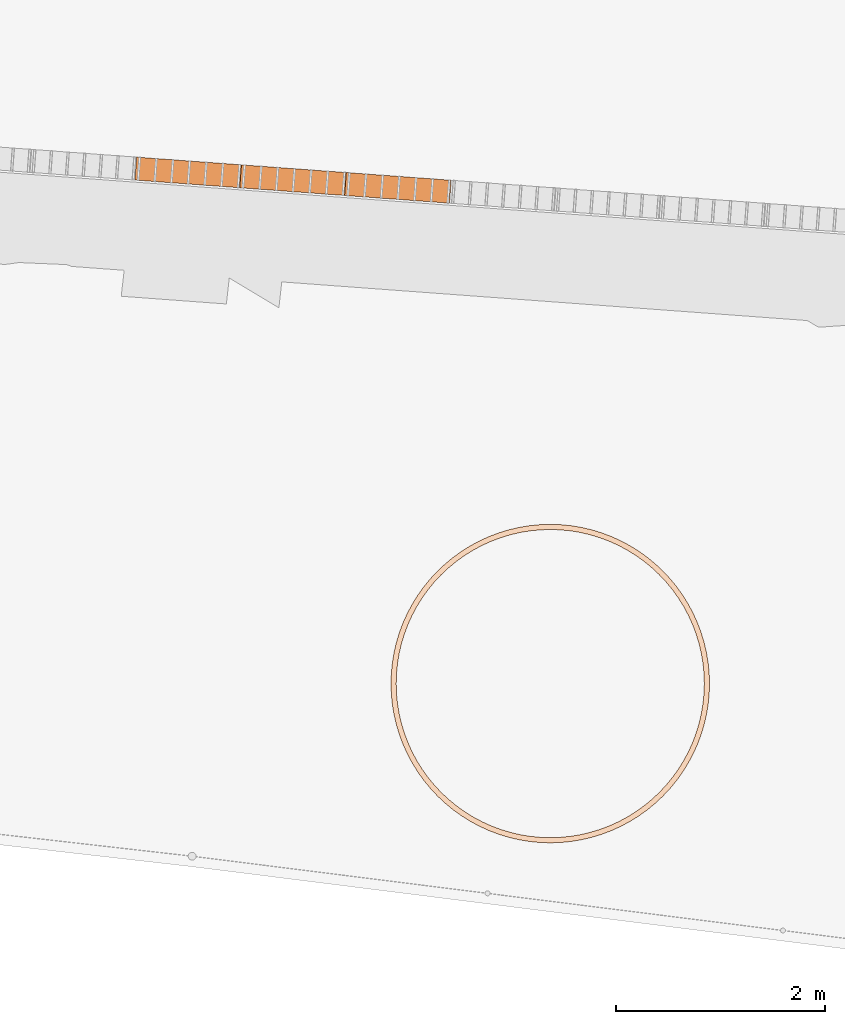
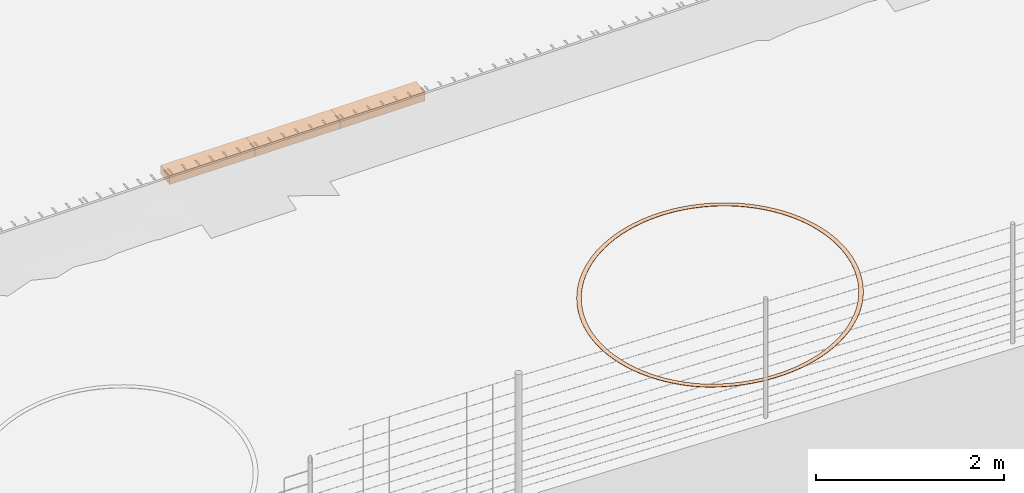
# Not in any storey, part 70 of 72: 3 proxies, 1 geographic element.
"""IFC4 model written with IfcOpenShell, lengths in metres."""

from ifc_helpers import new_model, si_unit, direction, frame, origin_with_axes, place, context, subcontext, project, spatial, polygons, material, element, save


model = new_model("IFC4")

# Units and contexts
model_context = context("Model", 3, precision=1e-05, world=origin_with_axes(), true_north=direction((0.0, 1.0)))
body_context = subcontext(model_context, "Body", "Model", "MODEL_VIEW")
ifc_project = project(units=[si_unit("AREAUNIT", "SQUARE_METRE"), si_unit("VOLUMEUNIT", "CUBIC_METRE"), si_unit("LENGTHUNIT", "METRE")], contexts=[model_context])

# Site
site_placement = place(None, origin_with_axes())
site = spatial("IfcSite", under=ifc_project, at=site_placement, Name="Lares · Rua das Mercês · artigo 4771")

# Proxies
ifc_material_1 = material(Name="Brita drenante", Category="stone")
proxy_1_placement = place(site_placement, frame((0.0, 0.0, 0.0), z_axis=(0.0, 0.0, 1.0), x_axis=(1.0, -1.03767253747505e-17, 0.0)))
element("IfcBuildingElementProxy", 1, at=proxy_1_placement, inside=site, material=ifc_material_1, Name="Acesso · dreno lateral raso · leito drenante", ObjectType="Acesso · dreno lateral raso · leito drenante", PredefinedType="USERDEFINED", context=body_context, shape_type="Tessellation", body=[
    polygons([(70.7471635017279, 1.44988744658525, 15.3206617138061), (70.7632908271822, 1.66929553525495, 15.3206617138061), (71.7673363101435, 1.59549438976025, 15.3752269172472), (71.7512089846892, 1.37608630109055, 15.3752269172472), (70.7471635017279, 1.44988744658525, 15.4356617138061), (70.7632908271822, 1.66929553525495, 15.4356617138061), (71.7673363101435, 1.59549438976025, 15.4902269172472), (71.7512089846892, 1.37608630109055, 15.4902269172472)], [[[4, 3, 2, 1]], [[5, 6, 7, 8]], [[1, 2, 6, 5]], [[2, 3, 7, 6]], [[3, 4, 8, 7]], [[4, 1, 5, 8]]]),
])
proxy_2_placement = place(site_placement, frame((0.0, 0.0, 0.0), z_axis=(0.0, 0.0, 1.0), x_axis=(1.0, -1.03767253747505e-17, 0.0)))
element("IfcBuildingElementProxy", 2, at=proxy_2_placement, inside=site, material=ifc_material_1, Name="Acesso · dreno lateral raso · leito drenante", ObjectType="Acesso · dreno lateral raso · leito drenante", PredefinedType="USERDEFINED", context=body_context, shape_type="Tessellation", body=[
    polygons([(71.7512089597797, 1.37608630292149, 15.3752269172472), (71.7673363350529, 1.59549438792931, 15.3752269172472), (72.7713731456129, 1.52169365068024, 15.4324257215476), (72.7552457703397, 1.30228556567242, 15.4324257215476), (71.7512089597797, 1.37608630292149, 15.4902269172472), (71.7673363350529, 1.59549438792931, 15.4902269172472), (72.7713731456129, 1.52169365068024, 15.5474257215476), (72.7552457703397, 1.30228556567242, 15.5474257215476)], [[[4, 3, 2, 1]], [[5, 6, 7, 8]], [[1, 2, 6, 5]], [[2, 3, 7, 6]], [[3, 4, 8, 7]], [[4, 1, 5, 8]]]),
])
proxy_3_placement = place(site_placement, frame((0.0, 0.0, 0.0), z_axis=(0.0, 0.0, 1.0), x_axis=(1.0, -1.03767253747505e-17, 0.0)))
element("IfcBuildingElementProxy", 3, at=proxy_3_placement, inside=site, material=ifc_material_1, Name="Acesso · dreno lateral raso · leito drenante", ObjectType="Acesso · dreno lateral raso · leito drenante", PredefinedType="USERDEFINED", context=body_context, shape_type="Tessellation", body=[
    polygons([(72.7552457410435, 1.30228556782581, 15.4324257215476), (72.771373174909, 1.52169364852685, 15.4324257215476), (73.7754008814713, 1.44789331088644, 15.4903385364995), (73.7592734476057, 1.2284852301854, 15.4903385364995), (72.7552457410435, 1.30228556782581, 15.5474257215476), (72.771373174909, 1.52169364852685, 15.5474257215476), (73.7754008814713, 1.44789331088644, 15.6053385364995), (73.7592734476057, 1.2284852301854, 15.6053385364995)], [[[4, 3, 2, 1]], [[5, 6, 7, 8]], [[1, 2, 6, 5]], [[2, 3, 7, 6]], [[3, 4, 8, 7]], [[4, 1, 5, 8]]]),
])

# Geographic element
ifc_material_2 = material(Name="Marcação de plantação · linha no terreno", Category="stone")
geographic_element_placement = place(site_placement, frame((0.0, 0.0, 0.0), z_axis=(0.0, 0.0, 1.0), x_axis=(1.0, -1.03767253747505e-17, 0.0)))
element("IfcGeographicElement", 4, at=geographic_element_placement, inside=site, material=ifc_material_2, Name="Marcação no solo · árvore indicativa 10", ObjectType="Marcação no solo · árvore indicativa 10", PredefinedType="USERDEFINED", context=body_context, shape_type="Tessellation", body=[
    polygons([(76.1989490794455, -3.37133911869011, 15.5107396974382), (76.1989490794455, -3.37133911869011, 15.5147396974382), (76.2489490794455, -3.37133911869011, 15.5139811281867), (76.2489490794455, -3.37133911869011, 15.5179811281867), (76.1957909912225, -3.27486950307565, 15.5164293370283), (76.1957909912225, -3.27486950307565, 15.5204293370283), (76.2456839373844, -3.27159934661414, 15.5198636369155), (76.2456839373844, -3.27159934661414, 15.5238636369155), (76.1863302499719, -3.17881298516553, 15.5216851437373), (76.1863302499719, -3.17881298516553, 15.5256851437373), (76.2359024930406, -3.17228667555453, 15.5252976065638), (76.2359024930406, -3.17228667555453, 15.5292976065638), (76.1706073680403, -3.08358089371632, 15.5264846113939), (76.1706073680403, -3.08358089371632, 15.5304846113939), (76.2196466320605, -3.07382637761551, 15.5302597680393), (76.2196466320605, -3.07382637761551, 15.5342597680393), (76.1486896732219, -2.98958102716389, 15.5308071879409), (76.1486896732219, -2.98958102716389, 15.5348071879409), (76.1969859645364, -2.97664007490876, 15.5347288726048), (76.1969859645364, -2.97664007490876, 15.5387288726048), (76.1206710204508, -2.89721590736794, 15.5346343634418), (76.1206710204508, -2.89721590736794, 15.5386343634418), (76.1680175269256, -2.88114393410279, 15.5386857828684), (76.1680175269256, -2.88114393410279, 15.5426857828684), (76.0866713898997, -2.8068810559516, 15.5379497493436), (76.0866713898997, -2.8068810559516, 15.5419497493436), (76.1328653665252, -2.78774688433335, 15.542113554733), (76.1328653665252, -2.78774688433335, 15.546113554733), (76.0468363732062, -2.71896330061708, 15.5407391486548), (76.0468363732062, -2.71896330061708, 15.5447391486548), (76.0916800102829, -2.69684886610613, 15.5449975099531), (76.0916800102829, -2.69684886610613, 15.5489975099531), (76.0013365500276, -2.63383911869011, 15.5429906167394), (76.0013365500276, -2.63383911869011, 15.5469906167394), (76.0446378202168, -2.60883911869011, 15.5473252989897), (76.0446378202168, -2.60883911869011, 15.5513252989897), (75.9503667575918, -2.55187302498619, 15.5446945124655), (75.9503667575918, -2.55187302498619, 15.5486945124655), (75.9919402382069, -2.52409451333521, 15.5490869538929), (75.9919402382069, -2.52409451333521, 15.5530869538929), (75.8941452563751, -2.47341601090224, 15.5458435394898), (75.8941452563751, -2.47341601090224, 15.5498435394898), (75.9338129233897, -2.44297793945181, 15.5502749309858), (75.9338129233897, -2.44297793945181, 15.5542749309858), (75.832912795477, -2.39880404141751, 15.5464327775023), (75.832912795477, -2.39880404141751, 15.5504327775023), (75.870504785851, -2.3658367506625, 15.5508841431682), (75.870504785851, -2.3658367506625, 15.5548841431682), (75.7669315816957, -2.32835661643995, 15.5464597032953), (75.7669315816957, -2.32835661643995, 15.5504597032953), (75.802286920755, -2.29300127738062, 15.5509119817), (75.802286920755, -2.29300127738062, 15.5549119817), (75.6964841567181, -2.26237540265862, 15.5459242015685), (75.6964841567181, -2.26237540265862, 15.5499242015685), (75.7294514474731, -2.22478341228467, 15.5503583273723), (75.7294514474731, -2.22478341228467, 15.5543583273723), (75.6218721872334, -2.20114294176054, 15.5448285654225), (75.6218721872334, -2.20114294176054, 15.5488285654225), (75.6523102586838, -2.16147527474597, 15.549225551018), (75.6523102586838, -2.16147527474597, 15.553225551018), (75.5434151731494, -2.14492144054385, 15.5431774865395), (75.5434151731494, -2.14492144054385, 15.5471774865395), (75.5711936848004, -2.10334795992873, 15.5475185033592), (75.5711936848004, -2.10334795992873, 15.5515185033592), (75.4614490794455, -2.09395164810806, 15.5409780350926), (75.4614490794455, -2.09395164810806, 15.5449780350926), (75.4864490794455, -2.05065037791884, 15.5452444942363), (75.4864490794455, -2.05065037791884, 15.5492444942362), (75.3763248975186, -2.04845182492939, 15.5382396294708), (75.3763248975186, -2.04845182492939, 15.5422396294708), (75.3984393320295, -2.00360818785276, 15.5424132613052), (75.3984393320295, -2.00360818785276, 15.5464132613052), (75.288407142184, -2.00861680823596, 15.5349739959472), (75.288407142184, -2.00861680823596, 15.5389739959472), (75.3075413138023, -1.9624228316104, 15.5390369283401), (75.3075413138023, -1.9624228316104, 15.5430369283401), (75.1980722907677, -1.97461717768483, 15.5311951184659), (75.1980722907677, -1.97461717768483, 15.5351951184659), (75.2141442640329, -1.92727067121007, 15.5351299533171), (75.2141442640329, -1.92727067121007, 15.5391299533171), (75.1057071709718, -1.94659852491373, 15.5269191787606), (75.1057071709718, -1.94659852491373, 15.5309191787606), (75.1186481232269, -1.89830223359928, 15.5307090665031), (75.1186481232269, -1.89830223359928, 15.5347090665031), (75.0117073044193, -1.92468083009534, 15.5221644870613), (75.0117073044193, -1.92468083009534, 15.5261644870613), (75.0214618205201, -1.87564156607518, 15.525793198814), (75.0214618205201, -1.87564156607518, 15.529793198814), (74.9164752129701, -1.90895794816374, 15.516951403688), (74.9164752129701, -1.90895794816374, 15.520951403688), (74.9230015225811, -1.85938570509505, 15.5204034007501), (74.9230015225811, -1.85938570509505, 15.5244034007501), (74.82041869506, -1.89949720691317, 15.5113022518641), (74.82041869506, -1.89949720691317, 15.5153022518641), (74.8236888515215, -1.84960426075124, 15.5145627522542), (74.8236888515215, -1.84960426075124, 15.5185627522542), (74.7239490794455, -1.89633911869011, 15.5052412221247), (74.7239490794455, -1.89633911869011, 15.5092412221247), (74.7239490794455, -1.84633911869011, 15.5082962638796), (74.7239490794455, -1.84633911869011, 15.5122962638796), (74.6274794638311, -1.89949720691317, 15.4987942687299), (74.6274794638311, -1.89949720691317, 15.5027942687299), (74.6242093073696, -1.84960426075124, 15.5016307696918), (74.6242093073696, -1.84960426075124, 15.5056307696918), (74.531422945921, -1.90895794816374, 15.4919889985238), (74.531422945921, -1.90895794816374, 15.4959889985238), (74.5248966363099, -1.85938570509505, 15.49459481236), (74.5248966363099, -1.85938570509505, 15.49859481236), (74.4361908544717, -1.92468083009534, 15.4848545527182), (74.4361908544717, -1.92468083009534, 15.4888545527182), (74.4264363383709, -1.87564156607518, 15.4872185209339), (74.4264363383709, -1.87564156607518, 15.4912185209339), (74.3421909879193, -1.94659852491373, 15.4774214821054), (74.3421909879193, -1.94659852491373, 15.4814214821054), (74.3292500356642, -1.89830223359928, 15.4795334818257), (74.3292500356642, -1.89830223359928, 15.4835334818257), (74.2498258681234, -1.97461717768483, 15.4697216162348), (74.2498258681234, -1.97461717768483, 15.4737216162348), (74.2337538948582, -1.92727067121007, 15.4715726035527), (74.2337538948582, -1.92727067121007, 15.4755726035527), (74.159491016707, -2.00861680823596, 15.4617879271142), (74.159491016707, -2.00861680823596, 15.4657879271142), (74.1403568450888, -1.9624228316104, 15.4633699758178), (74.1403568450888, -1.9624228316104, 15.4673699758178), (74.0715732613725, -2.04845182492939, 15.4536543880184), (74.0715732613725, -2.04845182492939, 15.4576543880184), (74.0494588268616, -2.00360818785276, 15.4549607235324), (74.0494588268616, -2.00360818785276, 15.4589607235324), (73.9864490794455, -2.09395164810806, 15.4453558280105), (73.9864490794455, -2.09395164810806, 15.4493558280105), (73.9614490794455, -2.05065037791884, 15.4463808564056), (73.9614490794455, -2.05065037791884, 15.4503808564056), (73.9044829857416, -2.14492144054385, 15.4369277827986), (73.9044829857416, -2.14492144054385, 15.4409277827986), (73.8767044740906, -2.10334795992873, 15.4376671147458), (73.8767044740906, -2.10334795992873, 15.4416671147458), (73.8260259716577, -2.20114294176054, 15.428406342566), (73.8260259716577, -2.20114294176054, 15.432406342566), (73.7955879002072, -2.16147527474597, 15.4288568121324), (73.7955879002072, -2.16147527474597, 15.4328568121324), (73.7514140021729, -2.26237540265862, 15.4198279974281), (73.7514140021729, -2.26237540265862, 15.4238279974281), (73.7184467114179, -2.22478341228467, 15.4199876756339), (73.7184467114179, -2.22478341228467, 15.4239876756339), (73.6809665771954, -2.32835661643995, 15.4112294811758), (73.6809665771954, -2.32835661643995, 15.4152294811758), (73.645611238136, -2.29300127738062, 15.4110976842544), (73.645611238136, -2.29300127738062, 15.4150976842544), (73.614985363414, -2.39880404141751, 15.4026476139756), (73.614985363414, -2.39880404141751, 15.4066476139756), (73.5773933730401, -2.3658367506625, 15.4022249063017), (73.5773933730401, -2.3658367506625, 15.4062249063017), (73.553752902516, -2.47341601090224, 15.3941191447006), (73.553752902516, -2.47341601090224, 15.3981191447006), (73.5140852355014, -2.44297793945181, 15.3934073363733), (73.5140852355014, -2.44297793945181, 15.3974073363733), (73.4975314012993, -2.55187302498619, 15.3856805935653), (73.4975314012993, -2.55187302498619, 15.3896805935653), (73.4559579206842, -2.52409451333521, 15.3846827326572), (73.4559579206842, -2.52409451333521, 15.3886827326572), (73.4465616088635, -2.63383911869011, 15.3773680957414), (73.4465616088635, -2.63383911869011, 15.3813680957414), (73.4032603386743, -2.60883911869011, 15.376088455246), (73.4032603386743, -2.60883911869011, 15.380088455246), (73.4010617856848, -2.71896330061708, 15.3692172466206), (73.4010617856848, -2.71896330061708, 15.3732172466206), (73.3562181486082, -2.69684886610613, 15.367661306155), (73.3562181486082, -2.69684886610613, 15.371661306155), (73.3612267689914, -2.8068810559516, 15.3612629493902), (73.3612267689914, -2.8068810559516, 15.3652629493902), (73.3150327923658, -2.78774688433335, 15.3594373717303), (73.3150327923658, -2.78774688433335, 15.3634373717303), (73.3272271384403, -2.89721590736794, 15.3535392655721), (73.3272271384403, -2.89721590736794, 15.3575392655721), (73.2798806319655, -2.88114393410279, 15.3514518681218), (73.2798806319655, -2.88114393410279, 15.3554518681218), (73.2992084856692, -2.98958102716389, 15.3460792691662), (73.2992084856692, -2.98958102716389, 15.3500792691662), (73.2509121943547, -2.97664007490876, 15.3437389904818), (73.2509121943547, -2.97664007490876, 15.3477389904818), (73.2772907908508, -3.08358089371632, 15.3389149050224), (73.2772907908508, -3.08358089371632, 15.3429149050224), (73.2282515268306, -3.07382637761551, 15.3363317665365), (73.2282515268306, -3.07382637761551, 15.3403317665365), (73.2615679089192, -3.17881298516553, 15.3320768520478), (73.2615679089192, -3.17881298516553, 15.3360768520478), (73.2119956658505, -3.17228667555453, 15.329261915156), (73.2119956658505, -3.17228667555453, 15.333261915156), (73.2521071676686, -3.27486950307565, 15.325594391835), (73.2521071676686, -3.27486950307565, 15.329594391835), (73.2022142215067, -3.27159934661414, 15.3225597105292), (73.2022142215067, -3.27159934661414, 15.3265597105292), (73.2489490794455, -3.37133911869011, 15.319495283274), (73.2489490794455, -3.37133911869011, 15.323495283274), (73.1989490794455, -3.37133911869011, 15.3162538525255), (73.1989490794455, -3.37133911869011, 15.3202538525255), (73.2521071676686, -3.46780873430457, 15.3138056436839), (73.2521071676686, -3.46780873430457, 15.3178056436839), (73.2022142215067, -3.47107889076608, 15.3103713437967), (73.2022142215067, -3.47107889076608, 15.3143713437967), (73.2615679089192, -3.56386525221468, 15.3085498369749), (73.2615679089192, -3.56386525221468, 15.3125498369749), (73.2119956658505, -3.57039156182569, 15.3049373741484), (73.2119956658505, -3.57039156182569, 15.3089373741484), (73.2772907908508, -3.6590973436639, 15.3037503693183), (73.2772907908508, -3.6590973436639, 15.3077503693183), (73.2282515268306, -3.6688518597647, 15.2999752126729), (73.2282515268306, -3.6688518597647, 15.3039752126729), (73.2992084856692, -3.75309721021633, 15.2994277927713), (73.2992084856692, -3.75309721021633, 15.3034277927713), (73.2509121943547, -3.76603816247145, 15.2955061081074), (73.2509121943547, -3.76603816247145, 15.2995061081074), (73.3272271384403, -3.84546233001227, 15.2956006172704), (73.3272271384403, -3.84546233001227, 15.2996006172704), (73.2798806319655, -3.86153430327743, 15.2915491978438), (73.2798806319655, -3.86153430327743, 15.2955491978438), (73.3612267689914, -3.93579718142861, 15.2922852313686), (73.3612267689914, -3.93579718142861, 15.2962852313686), (73.3150327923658, -3.95493135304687, 15.2881214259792), (73.3150327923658, -3.95493135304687, 15.2921214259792), (73.4010617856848, -4.02371493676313, 15.2894958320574), (73.4010617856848, -4.02371493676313, 15.2934958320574), (73.3562181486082, -4.04582937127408, 15.2852374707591), (73.3562181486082, -4.04582937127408, 15.2892374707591), (73.4465616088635, -4.10883911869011, 15.2872443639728), (73.4465616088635, -4.10883911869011, 15.2912443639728), (73.4032603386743, -4.13383911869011, 15.2829096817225), (73.4032603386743, -4.13383911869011, 15.2869096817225), (73.4975314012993, -4.19080521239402, 15.2855404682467), (73.4975314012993, -4.19080521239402, 15.2895404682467), (73.4559579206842, -4.218583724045, 15.2811480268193), (73.4559579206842, -4.218583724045, 15.2851480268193), (73.553752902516, -4.26926222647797, 15.2843914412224), (73.553752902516, -4.26926222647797, 15.2883914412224), (73.5140852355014, -4.29970029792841, 15.2799600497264), (73.5140852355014, -4.29970029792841, 15.2839600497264), (73.614985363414, -4.34387419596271, 15.2838022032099), (73.614985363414, -4.34387419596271, 15.2878022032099), (73.5773933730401, -4.37684148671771, 15.279350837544), (73.5773933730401, -4.37684148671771, 15.283350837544), (73.6809665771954, -4.41432162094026, 15.2837752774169), (73.6809665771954, -4.41432162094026, 15.2877752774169), (73.645611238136, -4.44967695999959, 15.2793229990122), (73.645611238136, -4.44967695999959, 15.2833229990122), (73.7514140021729, -4.4803028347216, 15.2843107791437), (73.7514140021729, -4.4803028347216, 15.2883107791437), (73.7184467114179, -4.51789482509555, 15.2798766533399), (73.7184467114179, -4.51789482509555, 15.2838766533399), (73.8260259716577, -4.54153529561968, 15.2854064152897), (73.8260259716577, -4.54153529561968, 15.2894064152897), (73.7955879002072, -4.58120296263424, 15.2819611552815), (73.7955879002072, -4.58120296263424, 15.2859611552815), (73.9044829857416, -4.59775679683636, 15.2894977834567), (73.9044829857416, -4.59775679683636, 15.2934977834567), (73.8767044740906, -4.63933027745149, 15.2864316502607), (73.8767044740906, -4.63933027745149, 15.2904316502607), (73.9864490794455, -4.64872658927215, 15.2942090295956), (73.9864490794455, -4.64872658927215, 15.2982090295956), (73.9614490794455, -4.69202785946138, 15.2913025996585), (73.9614490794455, -4.69202785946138, 15.2953025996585), (74.0715732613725, -4.69422641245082, 15.2992874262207), (74.0715732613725, -4.69422641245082, 15.3032874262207), (74.0494588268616, -4.73907004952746, 15.2965531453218), (74.0494588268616, -4.73907004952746, 15.3005531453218), (74.159491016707, -4.73406142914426, 15.304711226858), (74.159491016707, -4.73406142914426, 15.308711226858), (74.1403568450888, -4.78025540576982, 15.3021608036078), (74.1403568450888, -4.78025540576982, 15.3061608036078), (74.2498258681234, -4.76806105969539, 15.3104572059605), (74.2498258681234, -4.76806105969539, 15.3144572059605), (74.2337538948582, -4.81540756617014, 15.3081015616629), (74.2337538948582, -4.81540756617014, 15.3121015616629), (74.3421909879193, -4.79607971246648, 15.3165007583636), (74.3421909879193, -4.79607971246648, 15.3205007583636), (74.3292500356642, -4.84437600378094, 15.3143499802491), (74.3292500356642, -4.84437600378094, 15.3183499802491), (74.4361908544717, -4.81799740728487, 15.322816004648), (74.4361908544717, -4.81799740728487, 15.326816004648), (74.4264363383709, -4.86703667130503, 15.3208793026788), (74.4264363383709, -4.86703667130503, 15.3248793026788), (74.531422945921, -4.83372028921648, 15.3293759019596), (74.531422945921, -4.83372028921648, 15.3333759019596), (74.5248966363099, -4.88329253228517, 15.3276615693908), (74.5248966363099, -4.88329253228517, 15.3316615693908), (74.6274794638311, -4.84318103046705, 15.3361523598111), (74.6274794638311, -4.84318103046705, 15.3401523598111), (74.6242093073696, -4.89307397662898, 15.3346677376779), (74.6242093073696, -4.89307397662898, 15.3386677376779), (74.7239490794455, -4.84633911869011, 15.3431163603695), (74.7239490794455, -4.84633911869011, 15.3471163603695), (74.7239490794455, -4.89633911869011, 15.3418678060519), (74.7239490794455, -4.89633911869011, 15.3458678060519), (74.82041869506, -4.84318103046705, 15.3502380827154), (74.82041869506, -4.84318103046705, 15.3542380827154), (74.8236888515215, -4.89307397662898, 15.3492309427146), (74.8236888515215, -4.89307397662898, 15.3532309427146), (74.9164752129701, -4.83372028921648, 15.3574870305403), (74.9164752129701, -4.83372028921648, 15.3614870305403), (74.9230015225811, -4.88329253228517, 15.3567256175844), (74.9230015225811, -4.88329253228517, 15.3607256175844), (75.0117073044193, -4.81799740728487, 15.3648321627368), (75.0117073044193, -4.81799740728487, 15.3688321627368), (75.0214618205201, -4.86703667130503, 15.364319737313), (75.0214618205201, -4.86703667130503, 15.368319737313), (75.1057071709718, -4.79607971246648, 15.3722420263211), (75.1057071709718, -4.79607971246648, 15.3762420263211), (75.1186481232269, -4.84437600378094, 15.3719807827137), (75.1186481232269, -4.84437600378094, 15.3759807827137), (75.1980722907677, -4.76806105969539, 15.3796848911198), (75.1980722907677, -4.76806105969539, 15.3836848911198), (75.2141442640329, -4.81540756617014, 15.3796759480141), (75.2141442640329, -4.81540756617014, 15.383675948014), (75.288407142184, -4.73406142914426, 15.3871288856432), (75.288407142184, -4.73406142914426, 15.3911288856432), (75.3075413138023, -4.78025540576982, 15.3873722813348), (75.3075413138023, -4.78025540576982, 15.3913722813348), (75.3763248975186, -4.69422641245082, 15.3945421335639), (75.3763248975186, -4.69422641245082, 15.3985421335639), (75.3984393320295, -4.73907004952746, 15.3950368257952), (75.3984393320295, -4.73907004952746, 15.3990368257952), (75.4614490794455, -4.64872658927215, 15.4018928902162), (75.4614490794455, -4.64872658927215, 15.4058928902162), (75.4864490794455, -4.69202785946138, 15.4026367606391), (75.4864490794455, -4.69202785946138, 15.4066367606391), (75.5434151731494, -4.59775679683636, 15.4091496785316), (75.5434151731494, -4.59775679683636, 15.4131496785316), (75.5711936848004, -4.63933027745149, 15.4101395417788), (75.5711936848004, -4.63933027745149, 15.4141395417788), (75.6218721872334, -4.54153529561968, 15.4162814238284), (75.6218721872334, -4.54153529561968, 15.4202814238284), (75.6523102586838, -4.58120296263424, 15.4175130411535), (75.6523102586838, -4.58120296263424, 15.4215130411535), (75.6964841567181, -4.4803028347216, 15.4232575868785), (75.6964841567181, -4.4803028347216, 15.4272575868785), (75.7294514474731, -4.51789482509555, 15.424725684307), (75.7294514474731, -4.51789482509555, 15.428725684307), (75.7669315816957, -4.41432162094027, 15.4300482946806), (75.7669315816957, -4.41432162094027, 15.4340482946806), (75.802286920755, -4.44967695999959, 15.4317465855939), (75.802286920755, -4.44967695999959, 15.4357465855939), (75.832912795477, -4.34387419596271, 15.4366244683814), (75.832912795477, -4.34387419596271, 15.4406244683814), (75.870504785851, -4.37684148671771, 15.4385456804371), (75.870504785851, -4.37684148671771, 15.4425456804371), (75.8941452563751, -4.26926222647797, 15.4429579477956), (75.8941452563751, -4.26926222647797, 15.4469579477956), (75.9338129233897, -4.29970029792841, 15.4450938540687), (75.9338129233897, -4.29970029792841, 15.4490938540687), (75.9503667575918, -4.19080521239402, 15.4490216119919), (75.9503667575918, -4.19080521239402, 15.4530216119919), (75.9919402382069, -4.218583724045, 15.4513630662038), (75.9919402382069, -4.218583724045, 15.4553630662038), (76.0013365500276, -4.10883911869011, 15.4547894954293), (76.0013365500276, -4.10883911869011, 15.4587894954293), (76.0446378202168, -4.13383911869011, 15.4573264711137), (76.0446378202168, -4.13383911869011, 15.4613264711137), (76.0468363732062, -4.02371493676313, 15.4610177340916), (76.0468363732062, -4.02371493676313, 15.4650177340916), (76.0916800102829, -4.04582937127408, 15.4629585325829), (76.0916800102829, -4.04582937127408, 15.4669585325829), (76.0866713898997, -3.93579718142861, 15.468972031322), (76.0866713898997, -3.93579718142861, 15.472972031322), (76.1328653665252, -3.95493135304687, 15.4707976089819), (76.1328653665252, -3.95493135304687, 15.4747976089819), (76.1206710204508, -3.84546233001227, 15.4766957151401), (76.1206710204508, -3.84546233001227, 15.4806957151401), (76.1680175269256, -3.86153430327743, 15.4787831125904), (76.1680175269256, -3.86153430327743, 15.4827831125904), (76.1486896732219, -3.75309721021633, 15.484155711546), (76.1486896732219, -3.75309721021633, 15.488155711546), (76.1969859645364, -3.76603816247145, 15.4864959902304), (76.1969859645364, -3.76603816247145, 15.4904959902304), (76.1706073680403, -3.6590973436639, 15.4913200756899), (76.1706073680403, -3.6590973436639, 15.4953200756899), (76.2196466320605, -3.6688518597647, 15.4939032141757), (76.2196466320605, -3.6688518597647, 15.4979032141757), (76.1863302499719, -3.56386525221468, 15.4981581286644), (76.1863302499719, -3.56386525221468, 15.5021581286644), (76.2359024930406, -3.57039156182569, 15.5009730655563), (76.2359024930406, -3.57039156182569, 15.5049730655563), (76.1957909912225, -3.46780873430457, 15.5046405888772), (76.1957909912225, -3.46780873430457, 15.5086405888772), (76.2456839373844, -3.47107889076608, 15.507675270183), (76.2456839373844, -3.47107889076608, 15.511675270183)], [[[5, 7, 3, 1]], [[4, 8, 6, 2]], [[2, 6, 5, 1]], [[7, 8, 4, 3]], [[9, 11, 7, 5]], [[8, 12, 10, 6]], [[6, 10, 9, 5]], [[11, 12, 8, 7]], [[13, 15, 11, 9]], [[12, 16, 14, 10]], [[10, 14, 13, 9]], [[15, 16, 12, 11]], [[17, 19, 15, 13]], [[16, 20, 18, 14]], [[14, 18, 17, 13]], [[19, 20, 16, 15]], [[21, 23, 19, 17]], [[20, 24, 22, 18]], [[18, 22, 21, 17]], [[23, 24, 20, 19]], [[25, 27, 23, 21]], [[24, 28, 26, 22]], [[22, 26, 25, 21]], [[27, 28, 24, 23]], [[29, 31, 27, 25]], [[28, 32, 30, 26]], [[26, 30, 29, 25]], [[31, 32, 28, 27]], [[33, 35, 31, 29]], [[32, 36, 34, 30]], [[30, 34, 33, 29]], [[35, 36, 32, 31]], [[37, 39, 35, 33]], [[36, 40, 38, 34]], [[34, 38, 37, 33]], [[39, 40, 36, 35]], [[41, 43, 39, 37]], [[40, 44, 42, 38]], [[38, 42, 41, 37]], [[43, 44, 40, 39]], [[45, 47, 43, 41]], [[44, 48, 46, 42]], [[42, 46, 45, 41]], [[47, 48, 44, 43]], [[49, 51, 47, 45]], [[48, 52, 50, 46]], [[46, 50, 49, 45]], [[51, 52, 48, 47]], [[53, 55, 51, 49]], [[52, 56, 54, 50]], [[50, 54, 53, 49]], [[55, 56, 52, 51]], [[57, 59, 55, 53]], [[56, 60, 58, 54]], [[54, 58, 57, 53]], [[59, 60, 56, 55]], [[61, 63, 59, 57]], [[60, 64, 62, 58]], [[58, 62, 61, 57]], [[63, 64, 60, 59]], [[65, 67, 63, 61]], [[64, 68, 66, 62]], [[62, 66, 65, 61]], [[67, 68, 64, 63]], [[69, 71, 67, 65]], [[68, 72, 70, 66]], [[66, 70, 69, 65]], [[71, 72, 68, 67]], [[73, 75, 71, 69]], [[72, 76, 74, 70]], [[70, 74, 73, 69]], [[75, 76, 72, 71]], [[77, 79, 75, 73]], [[76, 80, 78, 74]], [[74, 78, 77, 73]], [[79, 80, 76, 75]], [[81, 83, 79, 77]], [[80, 84, 82, 78]], [[78, 82, 81, 77]], [[83, 84, 80, 79]], [[85, 87, 83, 81]], [[84, 88, 86, 82]], [[82, 86, 85, 81]], [[87, 88, 84, 83]], [[89, 91, 87, 85]], [[88, 92, 90, 86]], [[86, 90, 89, 85]], [[91, 92, 88, 87]], [[93, 95, 91, 89]], [[92, 96, 94, 90]], [[90, 94, 93, 89]], [[95, 96, 92, 91]], [[97, 99, 95, 93]], [[96, 100, 98, 94]], [[94, 98, 97, 93]], [[99, 100, 96, 95]], [[101, 103, 99, 97]], [[100, 104, 102, 98]], [[98, 102, 101, 97]], [[103, 104, 100, 99]], [[105, 107, 103, 101]], [[104, 108, 106, 102]], [[102, 106, 105, 101]], [[107, 108, 104, 103]], [[109, 111, 107, 105]], [[108, 112, 110, 106]], [[106, 110, 109, 105]], [[111, 112, 108, 107]], [[113, 115, 111, 109]], [[112, 116, 114, 110]], [[110, 114, 113, 109]], [[115, 116, 112, 111]], [[117, 119, 115, 113]], [[116, 120, 118, 114]], [[114, 118, 117, 113]], [[119, 120, 116, 115]], [[121, 123, 119, 117]], [[120, 124, 122, 118]], [[118, 122, 121, 117]], [[123, 124, 120, 119]], [[125, 127, 123, 121]], [[124, 128, 126, 122]], [[122, 126, 125, 121]], [[127, 128, 124, 123]], [[129, 131, 127, 125]], [[128, 132, 130, 126]], [[126, 130, 129, 125]], [[131, 132, 128, 127]], [[133, 135, 131, 129]], [[132, 136, 134, 130]], [[130, 134, 133, 129]], [[135, 136, 132, 131]], [[137, 139, 135, 133]], [[136, 140, 138, 134]], [[134, 138, 137, 133]], [[139, 140, 136, 135]], [[141, 143, 139, 137]], [[140, 144, 142, 138]], [[138, 142, 141, 137]], [[143, 144, 140, 139]], [[145, 147, 143, 141]], [[144, 148, 146, 142]], [[142, 146, 145, 141]], [[147, 148, 144, 143]], [[149, 151, 147, 145]], [[148, 152, 150, 146]], [[146, 150, 149, 145]], [[151, 152, 148, 147]], [[153, 155, 151, 149]], [[152, 156, 154, 150]], [[150, 154, 153, 149]], [[155, 156, 152, 151]], [[157, 159, 155, 153]], [[156, 160, 158, 154]], [[154, 158, 157, 153]], [[159, 160, 156, 155]], [[161, 163, 159, 157]], [[160, 164, 162, 158]], [[158, 162, 161, 157]], [[163, 164, 160, 159]], [[165, 167, 163, 161]], [[164, 168, 166, 162]], [[162, 166, 165, 161]], [[167, 168, 164, 163]], [[169, 171, 167, 165]], [[168, 172, 170, 166]], [[166, 170, 169, 165]], [[171, 172, 168, 167]], [[173, 175, 171, 169]], [[172, 176, 174, 170]], [[170, 174, 173, 169]], [[175, 176, 172, 171]], [[177, 179, 175, 173]], [[176, 180, 178, 174]], [[174, 178, 177, 173]], [[179, 180, 176, 175]], [[181, 183, 179, 177]], [[180, 184, 182, 178]], [[178, 182, 181, 177]], [[183, 184, 180, 179]], [[185, 187, 183, 181]], [[184, 188, 186, 182]], [[182, 186, 185, 181]], [[187, 188, 184, 183]], [[189, 191, 187, 185]], [[188, 192, 190, 186]], [[186, 190, 189, 185]], [[191, 192, 188, 187]], [[193, 195, 191, 189]], [[192, 196, 194, 190]], [[190, 194, 193, 189]], [[195, 196, 192, 191]], [[197, 199, 195, 193]], [[196, 200, 198, 194]], [[194, 198, 197, 193]], [[199, 200, 196, 195]], [[201, 203, 199, 197]], [[200, 204, 202, 198]], [[198, 202, 201, 197]], [[203, 204, 200, 199]], [[205, 207, 203, 201]], [[204, 208, 206, 202]], [[202, 206, 205, 201]], [[207, 208, 204, 203]], [[209, 211, 207, 205]], [[208, 212, 210, 206]], [[206, 210, 209, 205]], [[211, 212, 208, 207]], [[213, 215, 211, 209]], [[212, 216, 214, 210]], [[210, 214, 213, 209]], [[215, 216, 212, 211]], [[217, 219, 215, 213]], [[216, 220, 218, 214]], [[214, 218, 217, 213]], [[219, 220, 216, 215]], [[221, 223, 219, 217]], [[220, 224, 222, 218]], [[218, 222, 221, 217]], [[223, 224, 220, 219]], [[225, 227, 223, 221]], [[224, 228, 226, 222]], [[222, 226, 225, 221]], [[227, 228, 224, 223]], [[229, 231, 227, 225]], [[228, 232, 230, 226]], [[226, 230, 229, 225]], [[231, 232, 228, 227]], [[233, 235, 231, 229]], [[232, 236, 234, 230]], [[230, 234, 233, 229]], [[235, 236, 232, 231]], [[237, 239, 235, 233]], [[236, 240, 238, 234]], [[234, 238, 237, 233]], [[239, 240, 236, 235]], [[241, 243, 239, 237]], [[240, 244, 242, 238]], [[238, 242, 241, 237]], [[243, 244, 240, 239]], [[245, 247, 243, 241]], [[244, 248, 246, 242]], [[242, 246, 245, 241]], [[247, 248, 244, 243]], [[249, 251, 247, 245]], [[248, 252, 250, 246]], [[246, 250, 249, 245]], [[251, 252, 248, 247]], [[253, 255, 251, 249]], [[252, 256, 254, 250]], [[250, 254, 253, 249]], [[255, 256, 252, 251]], [[257, 259, 255, 253]], [[256, 260, 258, 254]], [[254, 258, 257, 253]], [[259, 260, 256, 255]], [[261, 263, 259, 257]], [[260, 264, 262, 258]], [[258, 262, 261, 257]], [[263, 264, 260, 259]], [[265, 267, 263, 261]], [[264, 268, 266, 262]], [[262, 266, 265, 261]], [[267, 268, 264, 263]], [[269, 271, 267, 265]], [[268, 272, 270, 266]], [[266, 270, 269, 265]], [[271, 272, 268, 267]], [[273, 275, 271, 269]], [[272, 276, 274, 270]], [[270, 274, 273, 269]], [[275, 276, 272, 271]], [[277, 279, 275, 273]], [[276, 280, 278, 274]], [[274, 278, 277, 273]], [[279, 280, 276, 275]], [[281, 283, 279, 277]], [[280, 284, 282, 278]], [[278, 282, 281, 277]], [[283, 284, 280, 279]], [[285, 287, 283, 281]], [[284, 288, 286, 282]], [[282, 286, 285, 281]], [[287, 288, 284, 283]], [[289, 291, 287, 285]], [[288, 292, 290, 286]], [[286, 290, 289, 285]], [[291, 292, 288, 287]], [[293, 295, 291, 289]], [[292, 296, 294, 290]], [[290, 294, 293, 289]], [[295, 296, 292, 291]], [[297, 299, 295, 293]], [[296, 300, 298, 294]], [[294, 298, 297, 293]], [[299, 300, 296, 295]], [[301, 303, 299, 297]], [[300, 304, 302, 298]], [[298, 302, 301, 297]], [[303, 304, 300, 299]], [[305, 307, 303, 301]], [[304, 308, 306, 302]], [[302, 306, 305, 301]], [[307, 308, 304, 303]], [[309, 311, 307, 305]], [[308, 312, 310, 306]], [[306, 310, 309, 305]], [[311, 312, 308, 307]], [[313, 315, 311, 309]], [[312, 316, 314, 310]], [[310, 314, 313, 309]], [[315, 316, 312, 311]], [[317, 319, 315, 313]], [[316, 320, 318, 314]], [[314, 318, 317, 313]], [[319, 320, 316, 315]], [[321, 323, 319, 317]], [[320, 324, 322, 318]], [[318, 322, 321, 317]], [[323, 324, 320, 319]], [[325, 327, 323, 321]], [[324, 328, 326, 322]], [[322, 326, 325, 321]], [[327, 328, 324, 323]], [[329, 331, 327, 325]], [[328, 332, 330, 326]], [[326, 330, 329, 325]], [[331, 332, 328, 327]], [[333, 335, 331, 329]], [[332, 336, 334, 330]], [[330, 334, 333, 329]], [[335, 336, 332, 331]], [[337, 339, 335, 333]], [[336, 340, 338, 334]], [[334, 338, 337, 333]], [[339, 340, 336, 335]], [[341, 343, 339, 337]], [[340, 344, 342, 338]], [[338, 342, 341, 337]], [[343, 344, 340, 339]], [[345, 347, 343, 341]], [[344, 348, 346, 342]], [[342, 346, 345, 341]], [[347, 348, 344, 343]], [[349, 351, 347, 345]], [[348, 352, 350, 346]], [[346, 350, 349, 345]], [[351, 352, 348, 347]], [[353, 355, 351, 349]], [[352, 356, 354, 350]], [[350, 354, 353, 349]], [[355, 356, 352, 351]], [[357, 359, 355, 353]], [[356, 360, 358, 354]], [[354, 358, 357, 353]], [[359, 360, 356, 355]], [[361, 363, 359, 357]], [[360, 364, 362, 358]], [[358, 362, 361, 357]], [[363, 364, 360, 359]], [[365, 367, 363, 361]], [[364, 368, 366, 362]], [[362, 366, 365, 361]], [[367, 368, 364, 363]], [[369, 371, 367, 365]], [[368, 372, 370, 366]], [[366, 370, 369, 365]], [[371, 372, 368, 367]], [[373, 375, 371, 369]], [[372, 376, 374, 370]], [[370, 374, 373, 369]], [[375, 376, 372, 371]], [[377, 379, 375, 373]], [[376, 380, 378, 374]], [[374, 378, 377, 373]], [[379, 380, 376, 375]], [[381, 383, 379, 377]], [[380, 384, 382, 378]], [[378, 382, 381, 377]], [[383, 384, 380, 379]], [[1, 3, 383, 381]], [[384, 4, 2, 382]], [[382, 2, 1, 381]], [[3, 4, 384, 383]]]),
])

save(model, "model.ifc")
